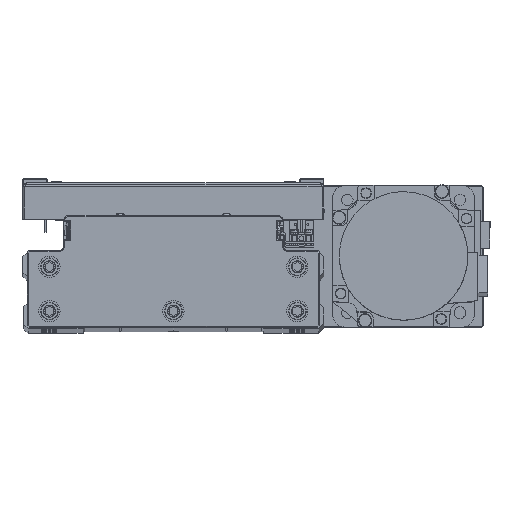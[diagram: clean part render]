
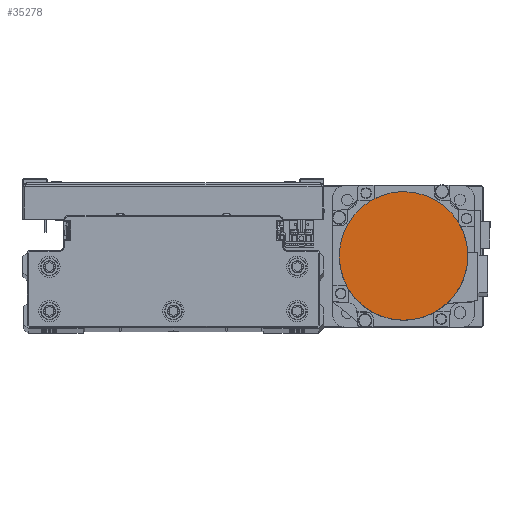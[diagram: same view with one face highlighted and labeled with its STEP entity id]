
A CAD part, top view. The second image highlights one B-rep face of the part: STEP entity #35278.
In plain terms, the highlighted planar face has unit normal (0, 0, 1) as drawn and (0, 0, -1) by its records, which use the part's own axes.
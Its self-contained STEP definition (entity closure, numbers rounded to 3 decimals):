
#277 = EDGE_CURVE ( 'NONE', #11802, #19830, #6095, .T. ) ;
#1680 = ORIENTED_EDGE ( 'NONE', *, *, #10781, .F. ) ;
#2471 = VERTEX_POINT ( 'NONE', #31718 ) ;
#2502 = CARTESIAN_POINT ( 'NONE',  ( -22.143, 28.862, -122.2 ) ) ;
#2833 = DIRECTION ( 'NONE',  ( 1., 0., 0. ) ) ;
#3414 = CARTESIAN_POINT ( 'NONE',  ( -32.628, -16.086, -122.2 ) ) ;
#4111 = EDGE_LOOP ( 'NONE', ( #15036, #1680, #13351, #30885 ) ) ;
#4647 = CARTESIAN_POINT ( 'NONE',  ( 36.3, 0., -122.2 ) ) ;
#4758 = CARTESIAN_POINT ( 'NONE',  ( 0., 0., -122.2 ) ) ;
#5960 = CARTESIAN_POINT ( 'NONE',  ( -11.696, 34.446, -122.2 ) ) ;
#6095 = CIRCLE ( 'NONE', #31754, 36.3 ) ;
#6177 = CARTESIAN_POINT ( 'NONE',  ( -36.3, 0., -122.2 ) ) ;
#6291 = PLANE ( 'NONE',  #14269 ) ;
#6855 = CARTESIAN_POINT ( 'NONE',  ( -36.066, -4.752, -122.2 ) ) ;
#7081 = CARTESIAN_POINT ( 'NONE',  ( -4.752, -36.066, -122.2 ) ) ;
#8240 = EDGE_CURVE ( 'NONE', #19830, #2471, #38617, .T. ) ;
#8825 = B_SPLINE_CURVE_WITH_KNOTS ( 'NONE', 3,
 ( #24267, #38304, #6855, #20810, #34850, #3414, #17391, #31409, #36705, #13944, #27948, #41996, #10520, #24492, #38523, #7081, #21042, #35078 ),
 .UNSPECIFIED., .F., .F.,
 ( 4, 2, 2, 2, 2, 2, 2, 2, 4 ),
 ( 0., 0.125, 0.25, 0.375, 0.5, 0.625, 0.75, 0.875, 1. ),
 .UNSPECIFIED. ) ;
#8939 = DIRECTION ( 'NONE',  ( -1., 0., 0. ) ) ;
#9387 = CARTESIAN_POINT ( 'NONE',  ( -2.376, 36.3, -122.2 ) ) ;
#9616 = CARTESIAN_POINT ( 'NONE',  ( -35.139, 9.412, -122.2 ) ) ;
#10520 = CARTESIAN_POINT ( 'NONE',  ( -16.086, -32.628, -122.2 ) ) ;
#10573 = EDGE_CURVE ( 'NONE', #24965, #11802, #43730, .T. ) ;
#10781 = EDGE_CURVE ( 'NONE', #2471, #24965, #8825, .T. ) ;
#11802 = VERTEX_POINT ( 'NONE', #4647 ) ;
#13042 = CARTESIAN_POINT ( 'NONE',  ( -31.502, 18.192, -122.2 ) ) ;
#13351 = ORIENTED_EDGE ( 'NONE', *, *, #8240, .F. ) ;
#13944 = CARTESIAN_POINT ( 'NONE',  ( -23.988, -27.348, -122.2 ) ) ;
#14269 = AXIS2_PLACEMENT_3D ( 'NONE', #20258, #34279, #2833 ) ;
#15036 = ORIENTED_EDGE ( 'NONE', *, *, #10573, .F. ) ;
#16486 = CARTESIAN_POINT ( 'NONE',  ( -23.988, 27.348, -122.2 ) ) ;
#17391 = CARTESIAN_POINT ( 'NONE',  ( -31.502, -18.192, -122.2 ) ) ;
#18745 = DIRECTION ( 'NONE',  ( 0., 0., 1. ) ) ;
#19830 = VERTEX_POINT ( 'NONE', #24352 ) ;
#19927 = CARTESIAN_POINT ( 'NONE',  ( -16.086, 32.628, -122.2 ) ) ;
#20258 = CARTESIAN_POINT ( 'NONE',  ( 0., 0., -122.2 ) ) ;
#20810 = CARTESIAN_POINT ( 'NONE',  ( -35.139, -9.412, -122.2 ) ) ;
#21042 = CARTESIAN_POINT ( 'NONE',  ( -2.376, -36.3, -122.2 ) ) ;
#23363 = CARTESIAN_POINT ( 'NONE',  ( -4.752, 36.066, -122.2 ) ) ;
#23588 = CARTESIAN_POINT ( 'NONE',  ( -36.066, 4.752, -122.2 ) ) ;
#23870 = AXIS2_PLACEMENT_3D ( 'NONE', #26338, #40388, #8939 ) ;
#24267 = CARTESIAN_POINT ( 'NONE',  ( -36.3, 0., -122.2 ) ) ;
#24352 = CARTESIAN_POINT ( 'NONE',  ( 0., 36.3, -122.2 ) ) ;
#24492 = CARTESIAN_POINT ( 'NONE',  ( -11.696, -34.446, -122.2 ) ) ;
#24965 = VERTEX_POINT ( 'NONE', #26916 ) ;
#26338 = CARTESIAN_POINT ( 'NONE',  ( 0., 0., -122.2 ) ) ;
#26916 = CARTESIAN_POINT ( 'NONE',  ( 0., -36.3, -122.2 ) ) ;
#27033 = CARTESIAN_POINT ( 'NONE',  ( -32.628, 16.086, -122.2 ) ) ;
#27948 = CARTESIAN_POINT ( 'NONE',  ( -22.143, -28.862, -122.2 ) ) ;
#30502 = CARTESIAN_POINT ( 'NONE',  ( -27.348, 23.988, -122.2 ) ) ;
#30885 = ORIENTED_EDGE ( 'NONE', *, *, #277, .F. ) ;
#31409 = CARTESIAN_POINT ( 'NONE',  ( -28.862, -22.143, -122.2 ) ) ;
#31718 = CARTESIAN_POINT ( 'NONE',  ( -36.3, 0., -122.2 ) ) ;
#31754 = AXIS2_PLACEMENT_3D ( 'NONE', #4758, #18745, #32765 ) ;
#32765 = DIRECTION ( 'NONE',  ( -1., 0., 0. ) ) ;
#33941 = CARTESIAN_POINT ( 'NONE',  ( -18.192, 31.502, -122.2 ) ) ;
#34279 = DIRECTION ( 'NONE',  ( 0., 0., 1. ) ) ;
#34850 = CARTESIAN_POINT ( 'NONE',  ( -34.446, -11.696, -122.2 ) ) ;
#35078 = CARTESIAN_POINT ( 'NONE',  ( 0., -36.3, -122.2 ) ) ;
#35278 = ADVANCED_FACE ( 'NONE', ( #37736 ), #6291, .F. ) ;
#36705 = CARTESIAN_POINT ( 'NONE',  ( -27.348, -23.988, -122.2 ) ) ;
#37404 = CARTESIAN_POINT ( 'NONE',  ( -9.412, 35.139, -122.2 ) ) ;
#37626 = CARTESIAN_POINT ( 'NONE',  ( -36.3, 2.376, -122.2 ) ) ;
#37736 = FACE_OUTER_BOUND ( 'NONE', #4111, .T. ) ;
#38304 = CARTESIAN_POINT ( 'NONE',  ( -36.3, -2.376, -122.2 ) ) ;
#38523 = CARTESIAN_POINT ( 'NONE',  ( -9.412, -35.139, -122.2 ) ) ;
#38617 = B_SPLINE_CURVE_WITH_KNOTS ( 'NONE', 3,
 ( #40857, #9387, #23363, #37404, #5960, #19927, #33941, #2502, #16486, #30502, #44544, #13042, #27033, #41083, #9616, #23588, #37626, #6177 ),
 .UNSPECIFIED., .F., .F.,
 ( 4, 2, 2, 2, 2, 2, 2, 2, 4 ),
 ( 0., 0.125, 0.25, 0.375, 0.5, 0.625, 0.75, 0.875, 1. ),
 .UNSPECIFIED. ) ;
#40388 = DIRECTION ( 'NONE',  ( 0., 0., 1. ) ) ;
#40857 = CARTESIAN_POINT ( 'NONE',  ( 0., 36.3, -122.2 ) ) ;
#41083 = CARTESIAN_POINT ( 'NONE',  ( -34.446, 11.696, -122.2 ) ) ;
#41996 = CARTESIAN_POINT ( 'NONE',  ( -18.192, -31.502, -122.2 ) ) ;
#43730 = CIRCLE ( 'NONE', #23870, 36.3 ) ;
#44544 = CARTESIAN_POINT ( 'NONE',  ( -28.862, 22.143, -122.2 ) ) ;
